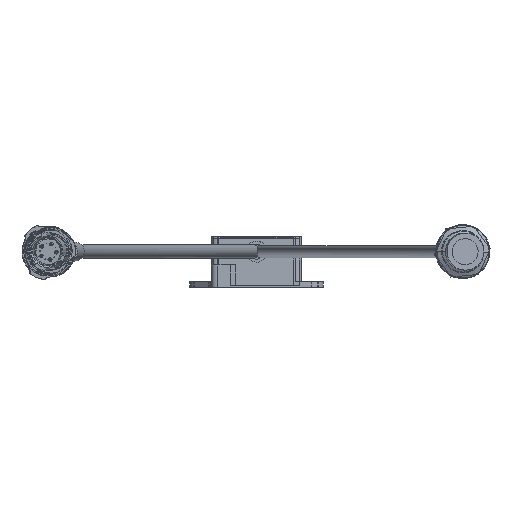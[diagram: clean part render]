
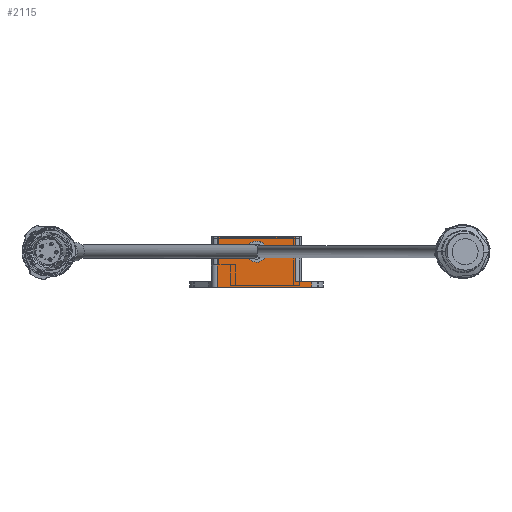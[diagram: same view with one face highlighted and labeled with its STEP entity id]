
A CAD part, front view. The second image highlights one B-rep face of the part: STEP entity #2115.
In plain terms, the highlighted planar face has unit normal (0, -1, 0).
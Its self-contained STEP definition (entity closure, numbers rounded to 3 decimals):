
#57=AXIS2_PLACEMENT_3D('Circle Axis2P3D',#55,#56,$) ;
#83=AXIS2_PLACEMENT_3D('Circle Axis2P3D',#81,#82,$) ;
#2099=AXIS2_PLACEMENT_3D('Plane Axis2P3D',#2096,#2097,#2098) ;
#50=CARTESIAN_POINT('Vertex',(-2.194,-17.601,5.135)) ;
#55=CARTESIAN_POINT('Axis2P3D Location',(0.,-17.601,6.333)) ;
#59=CARTESIAN_POINT('Vertex',(2.194,-17.601,7.532)) ;
#81=CARTESIAN_POINT('Axis2P3D Location',(0.,-17.601,6.333)) ;
#987=CARTESIAN_POINT('Vertex',(-10.5,-17.601,-3.167)) ;
#1020=CARTESIAN_POINT('Vertex',(14.757,-17.601,-3.167)) ;
#1023=CARTESIAN_POINT('Line Origine',(13.379,-17.601,-3.167)) ;
#1027=CARTESIAN_POINT('Vertex',(12.,-17.601,-3.167)) ;
#1030=CARTESIAN_POINT('Line Origine',(0.75,-17.601,-3.167)) ;
#1093=CARTESIAN_POINT('Line Origine',(-10.5,-17.601,11.583)) ;
#1097=CARTESIAN_POINT('Vertex',(-10.5,-17.601,10.333)) ;
#1157=CARTESIAN_POINT('Line Origine',(13.379,-17.601,-1.667)) ;
#1161=CARTESIAN_POINT('Vertex',(14.757,-17.601,-1.667)) ;
#1163=CARTESIAN_POINT('Vertex',(12.,-17.601,-1.667)) ;
#1189=CARTESIAN_POINT('Vertex',(10.5,-17.601,-1.667)) ;
#1192=CARTESIAN_POINT('Line Origine',(11.25,-17.601,-1.667)) ;
#1668=CARTESIAN_POINT('Line Origine',(14.757,-17.601,11.583)) ;
#1721=CARTESIAN_POINT('Line Origine',(10.5,-17.601,11.583)) ;
#1725=CARTESIAN_POINT('Vertex',(10.5,-17.601,10.333)) ;
#1951=CARTESIAN_POINT('Line Origine',(0.,-17.601,10.333)) ;
#2096=CARTESIAN_POINT('Axis2P3D Location',(12.,-17.601,-3.167)) ;
#56=DIRECTION('Axis2P3D Direction',(0.,-1.,0.)) ;
#82=DIRECTION('Axis2P3D Direction',(0.,-1.,0.)) ;
#1024=DIRECTION('Vector Direction',(1.,0.,0.)) ;
#1031=DIRECTION('Vector Direction',(-1.,0.,0.)) ;
#1094=DIRECTION('Vector Direction',(0.,0.,1.)) ;
#1158=DIRECTION('Vector Direction',(1.,0.,0.)) ;
#1193=DIRECTION('Vector Direction',(-1.,0.,0.)) ;
#1669=DIRECTION('Vector Direction',(0.,0.,1.)) ;
#1722=DIRECTION('Vector Direction',(0.,0.,1.)) ;
#1952=DIRECTION('Vector Direction',(1.,0.,0.)) ;
#2097=DIRECTION('Axis2P3D Direction',(0.,1.,-0.)) ;
#2098=DIRECTION('Axis2P3D XDirection',(-1.,0.,0.)) ;
#1025=VECTOR('Line Direction',#1024,1.) ;
#1032=VECTOR('Line Direction',#1031,1.) ;
#1095=VECTOR('Line Direction',#1094,1.) ;
#1159=VECTOR('Line Direction',#1158,1.) ;
#1194=VECTOR('Line Direction',#1193,1.) ;
#1670=VECTOR('Line Direction',#1669,1.) ;
#1723=VECTOR('Line Direction',#1722,1.) ;
#1953=VECTOR('Line Direction',#1952,1.) ;
#2102=ORIENTED_EDGE('',*,*,#1955,.F.) ;
#2103=ORIENTED_EDGE('',*,*,#1099,.F.) ;
#2104=ORIENTED_EDGE('',*,*,#1034,.T.) ;
#2105=ORIENTED_EDGE('',*,*,#1029,.F.) ;
#2106=ORIENTED_EDGE('',*,*,#1672,.T.) ;
#2107=ORIENTED_EDGE('',*,*,#1165,.T.) ;
#2108=ORIENTED_EDGE('',*,*,#1196,.F.) ;
#2109=ORIENTED_EDGE('',*,*,#1727,.T.) ;
#2112=ORIENTED_EDGE('',*,*,#61,.T.) ;
#2113=ORIENTED_EDGE('',*,*,#85,.T.) ;
#2114=FACE_BOUND('',#2111,.T.) ;
#2115=ADVANCED_FACE('Gehaeuse klein.1\\PartBody',(#2110,#2114),#2100,.F.) ;
#58=CIRCLE('generated circle',#57,2.5) ;
#84=CIRCLE('generated circle',#83,2.5) ;
#61=EDGE_CURVE('',#60,#51,#58,.F.) ;
#85=EDGE_CURVE('',#51,#60,#84,.F.) ;
#1029=EDGE_CURVE('',#1021,#1028,#1026,.F.) ;
#1034=EDGE_CURVE('',#988,#1028,#1033,.F.) ;
#1099=EDGE_CURVE('',#988,#1098,#1096,.T.) ;
#1165=EDGE_CURVE('',#1162,#1164,#1160,.F.) ;
#1196=EDGE_CURVE('',#1190,#1164,#1195,.F.) ;
#1672=EDGE_CURVE('',#1021,#1162,#1671,.T.) ;
#1727=EDGE_CURVE('',#1190,#1726,#1724,.T.) ;
#1955=EDGE_CURVE('',#1098,#1726,#1954,.T.) ;
#2101=EDGE_LOOP('',(#2102,#2103,#2104,#2105,#2106,#2107,#2108,#2109)) ;
#2111=EDGE_LOOP('',(#2112,#2113)) ;
#2110=FACE_OUTER_BOUND('',#2101,.T.) ;
#1026=LINE('Line',#1023,#1025) ;
#1033=LINE('Line',#1030,#1032) ;
#1096=LINE('Line',#1093,#1095) ;
#1160=LINE('Line',#1157,#1159) ;
#1195=LINE('Line',#1192,#1194) ;
#1671=LINE('Line',#1668,#1670) ;
#1724=LINE('Line',#1721,#1723) ;
#1954=LINE('Line',#1951,#1953) ;
#2100=PLANE('Plane',#2099) ;
#51=VERTEX_POINT('',#50) ;
#60=VERTEX_POINT('',#59) ;
#988=VERTEX_POINT('',#987) ;
#1021=VERTEX_POINT('',#1020) ;
#1028=VERTEX_POINT('',#1027) ;
#1098=VERTEX_POINT('',#1097) ;
#1162=VERTEX_POINT('',#1161) ;
#1164=VERTEX_POINT('',#1163) ;
#1190=VERTEX_POINT('',#1189) ;
#1726=VERTEX_POINT('',#1725) ;
